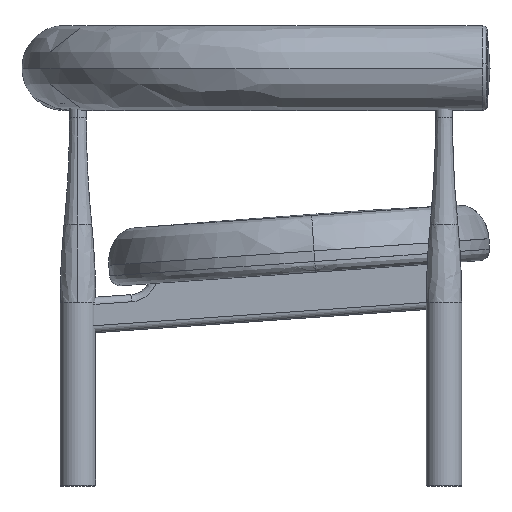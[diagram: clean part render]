
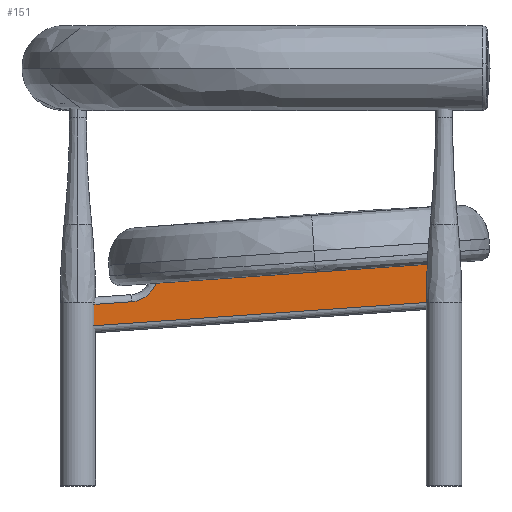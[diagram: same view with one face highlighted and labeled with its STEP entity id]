
A CAD part, left-side view. The second image highlights one B-rep face of the part: STEP entity #151.
In plain terms, the highlighted planar face has unit normal (-1, 0, 0).
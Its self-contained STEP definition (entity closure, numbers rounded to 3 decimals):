
#151=ADVANCED_FACE('',(#304),#2265,.T.);
#304=FACE_OUTER_BOUND('',#461,.T.);
#461=EDGE_LOOP('',(#872,#873,#874,#875,#876,#877));
#872=ORIENTED_EDGE('',*,*,#1379,.T.);
#873=ORIENTED_EDGE('',*,*,#1404,.T.);
#874=ORIENTED_EDGE('',*,*,#1380,.T.);
#875=ORIENTED_EDGE('',*,*,#1384,.T.);
#876=ORIENTED_EDGE('',*,*,#1397,.T.);
#877=ORIENTED_EDGE('',*,*,#1394,.T.);
#1379=EDGE_CURVE('',#2137,#2138,#1626,.T.);
#1380=EDGE_CURVE('',#2139,#2140,#1627,.T.);
#1384=EDGE_CURVE('',#2140,#2141,#1631,.T.);
#1394=EDGE_CURVE('',#2142,#2137,#1635,.T.);
#1397=EDGE_CURVE('',#2141,#2142,#1830,.T.);
#1404=EDGE_CURVE('',#2138,#2139,#1640,.T.);
#1626=B_SPLINE_CURVE_WITH_KNOTS('',1,(#5710,#5711),.UNSPECIFIED.,.F.,.F.,
(2,2),(0.,30.073),.UNSPECIFIED.);
#1627=B_SPLINE_CURVE_WITH_KNOTS('',1,(#5712,#5713),.UNSPECIFIED.,.F.,.F.,
(2,2),(0.,55.134),.UNSPECIFIED.);
#1631=B_SPLINE_CURVE_WITH_KNOTS('',1,(#5760,#5761),.UNSPECIFIED.,.F.,.F.,
(2,2),(-396.589,0.),.UNSPECIFIED.);
#1635=B_SPLINE_CURVE_WITH_KNOTS('',1,(#5792,#5793),.UNSPECIFIED.,.F.,.F.,
(2,2),(-74.402,0.),.UNSPECIFIED.);
#1640=B_SPLINE_CURVE_WITH_KNOTS('',1,(#5817,#5818),.UNSPECIFIED.,.F.,.F.,
(2,2),(-506.324,0.),.UNSPECIFIED.);
#1830=TRIMMED_CURVE($,#1980,(#5800),(#5801),.T.,.CARTESIAN.);
#1980=CIRCLE('',#2632,40.);
#2137=VERTEX_POINT('',#5693);
#2138=VERTEX_POINT('',#5694);
#2139=VERTEX_POINT('',#5695);
#2140=VERTEX_POINT('',#5696);
#2141=VERTEX_POINT('',#5697);
#2142=VERTEX_POINT('',#5698);
#2265=PLANE('',#2622);
#2622=AXIS2_PLACEMENT_3D('',#5522,#2953,$);
#2632=AXIS2_PLACEMENT_3D($,#5799,#2964,#2965);
#2953=DIRECTION('',(-1.,0.,0.));
#2964=DIRECTION('',(1.,0.,0.));
#2965=DIRECTION('',(0.,-0.951,-0.309));
#5522=CARTESIAN_POINT('',(-120.,495.506,258.409));
#5693=CARTESIAN_POINT('',(-120.,444.997,188.983));
#5694=CARTESIAN_POINT('',(-120.,444.997,158.91));
#5695=CARTESIAN_POINT('',(-120.,-60.094,194.229));
#5696=CARTESIAN_POINT('',(-120.,-60.094,249.364));
#5697=CARTESIAN_POINT('',(-120.,335.529,221.699));
#5698=CARTESIAN_POINT('',(-120.,370.776,194.173));
#5710=CARTESIAN_POINT('',(-120.,444.997,188.983));
#5711=CARTESIAN_POINT('',(-120.,444.997,158.91));
#5712=CARTESIAN_POINT('',(-120.,-60.094,194.229));
#5713=CARTESIAN_POINT('',(-120.,-60.094,249.364));
#5760=CARTESIAN_POINT('',(-120.,-60.094,249.364));
#5761=CARTESIAN_POINT('',(-120.,335.529,221.699));
#5792=CARTESIAN_POINT('',(-120.,370.776,194.173));
#5793=CARTESIAN_POINT('',(-120.,444.997,188.983));
#5799=CARTESIAN_POINT('',(-120.,373.566,234.076));
#5800=CARTESIAN_POINT('',(-120.,335.529,221.699));
#5801=CARTESIAN_POINT('',(-120.,370.776,194.173));
#5817=CARTESIAN_POINT('',(-120.,444.997,158.91));
#5818=CARTESIAN_POINT('',(-120.,-60.094,194.229));
